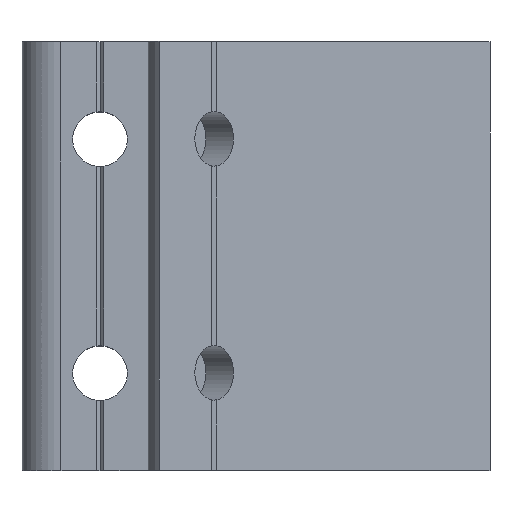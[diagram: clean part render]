
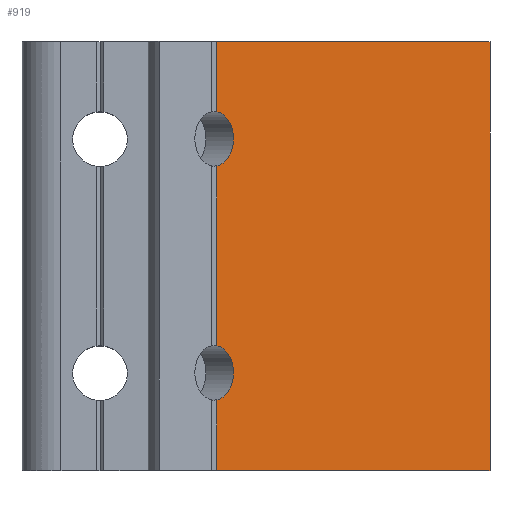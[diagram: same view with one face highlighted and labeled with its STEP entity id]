
A CAD part, top view. The second image highlights one B-rep face of the part: STEP entity #919.
In plain terms, the highlighted planar face has unit normal (0.707, 0, 0.707).
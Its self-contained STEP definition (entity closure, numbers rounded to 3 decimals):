
#44=CIRCLE('',#1019,3.5);
#45=CIRCLE('',#1020,3.5);
#52=LINE('',#1350,#138);
#67=LINE('',#1410,#153);
#87=LINE('',#1475,#173);
#103=LINE('',#1509,#189);
#108=LINE('',#1521,#194);
#128=LINE('',#1571,#214);
#138=VECTOR('',#1067,1000.);
#153=VECTOR('',#1120,1000.);
#173=VECTOR('',#1180,1000.);
#189=VECTOR('',#1204,1000.);
#194=VECTOR('',#1217,1000.);
#214=VECTOR('',#1269,1000.);
#382=ORIENTED_EDGE('',*,*,#503,.F.);
#383=ORIENTED_EDGE('',*,*,#618,.T.);
#384=ORIENTED_EDGE('',*,*,#619,.F.);
#385=ORIENTED_EDGE('',*,*,#588,.F.);
#386=ORIENTED_EDGE('',*,*,#562,.T.);
#387=ORIENTED_EDGE('',*,*,#581,.T.);
#388=ORIENTED_EDGE('',*,*,#530,.F.);
#389=ORIENTED_EDGE('',*,*,#620,.T.);
#503=EDGE_CURVE('',#640,#642,#52,.T.);
#530=EDGE_CURVE('',#666,#668,#67,.T.);
#562=EDGE_CURVE('',#693,#692,#87,.T.);
#581=EDGE_CURVE('',#692,#668,#103,.T.);
#588=EDGE_CURVE('',#693,#710,#108,.T.);
#618=EDGE_CURVE('',#640,#723,#44,.T.);
#619=EDGE_CURVE('',#710,#723,#128,.T.);
#620=EDGE_CURVE('',#666,#642,#45,.T.);
#640=VERTEX_POINT('',#1348);
#642=VERTEX_POINT('',#1351);
#666=VERTEX_POINT('',#1408);
#668=VERTEX_POINT('',#1411);
#692=VERTEX_POINT('',#1474);
#693=VERTEX_POINT('',#1476);
#710=VERTEX_POINT('',#1522);
#723=VERTEX_POINT('',#1570);
#783=EDGE_LOOP('',(#382,#383,#384,#385,#386,#387,#388,#389));
#833=FACE_BOUND('',#783,.T.);
#881=PLANE('',#1018);
#919=ADVANCED_FACE('',(#833),#881,.F.);
#1018=AXIS2_PLACEMENT_3D('',#1568,#1265,#1266);
#1019=AXIS2_PLACEMENT_3D('',#1569,#1267,#1268);
#1020=AXIS2_PLACEMENT_3D('',#1572,#1270,#1271);
#1067=DIRECTION('',(0.,1.,0.));
#1120=DIRECTION('',(0.,1.,0.));
#1180=DIRECTION('',(0.,1.,0.));
#1204=DIRECTION('',(-0.707,0.,0.707));
#1217=DIRECTION('',(-0.707,0.,0.707));
#1265=DIRECTION('',(-0.707,0.,-0.707));
#1266=DIRECTION('',(-0.707,0.,0.707));
#1267=DIRECTION('',(-0.707,0.,-0.707));
#1268=DIRECTION('',(-0.707,0.,0.707));
#1269=DIRECTION('',(0.,1.,0.));
#1270=DIRECTION('',(-0.707,0.,-0.707));
#1271=DIRECTION('',(-0.707,0.,0.707));
#1348=CARTESIAN_POINT('',(-35.002,-11.536,35.002));
#1350=CARTESIAN_POINT('',(-35.002,-91.788,35.002));
#1351=CARTESIAN_POINT('',(-35.002,11.536,35.002));
#1408=CARTESIAN_POINT('',(-35.002,18.464,35.002));
#1410=CARTESIAN_POINT('',(-35.002,-91.788,35.002));
#1411=CARTESIAN_POINT('',(-35.002,27.5,35.002));
#1474=CARTESIAN_POINT('',(0.,27.5,0.));
#1475=CARTESIAN_POINT('',(0.,-27.5,0.));
#1476=CARTESIAN_POINT('',(0.,-27.5,0.));
#1509=CARTESIAN_POINT('',(0.,27.5,0.));
#1521=CARTESIAN_POINT('',(0.,-27.5,0.));
#1522=CARTESIAN_POINT('',(-35.002,-27.5,35.002));
#1568=CARTESIAN_POINT('',(0.,-27.5,0.));
#1569=CARTESIAN_POINT('',(-35.355,-15.,35.355));
#1570=CARTESIAN_POINT('',(-35.002,-18.464,35.002));
#1571=CARTESIAN_POINT('',(-35.002,-91.788,35.002));
#1572=CARTESIAN_POINT('',(-35.355,15.,35.355));
